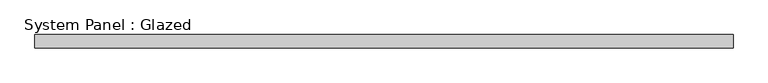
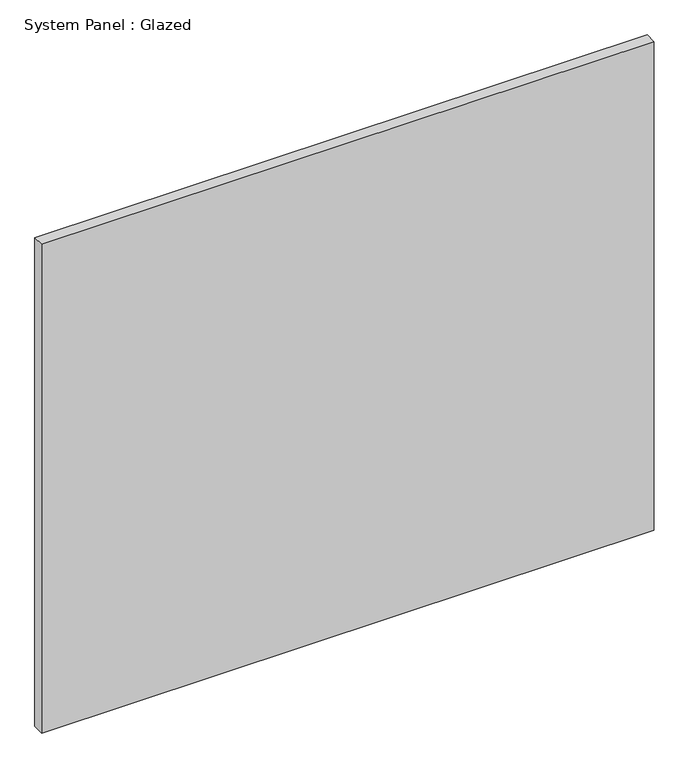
"""IFC4 building model written with IfcOpenShell, lengths in millimetres: plate geometry, System Panel : Glazed."""

from ifc_helpers import new_model, si_unit, origin, origin_with_axes, place, context, project, spatial, polyline, outline, extrude, source, transform, mapped, element, save


def system_panel_glazed_607453f2(model_context):
    return source(origin(), model_context, "Body", "SweptSolid", [
        extrude(outline(polyline([(674.4738159, 19.05), (-674.4738159, 19.05), (-674.4738159, 44.45), (674.4738159, 44.45), (674.4738159, 19.05)])), origin_with_axes(), (0.0, 0.0, 1.0), 1137.4164677),
    ])


if __name__ == "__main__":
    model = new_model("IFC4")
    model_context = context("Model", 3, world=origin())
    ifc_project = project(units=[si_unit("LENGTHUNIT", "METRE", prefix="MILLI")], contexts=[model_context])
    site = spatial("IfcSite", under=ifc_project)
    building = spatial("IfcBuilding", under=site)
    placement = place(None, origin())
    system_panel_glazed_shape = system_panel_glazed_607453f2(model_context)
    element("IfcPlate", 1, ObjectType="System Panel : Glazed", at=placement, inside=building, context=model_context, shape_type="MappedRepresentation", body=[
        mapped(system_panel_glazed_shape, transform((0.0, 0.0, 0.0), x_axis=(1.0, 0.0, 0.0), y_axis=(0.0, 1.0, 0.0), z_axis=(0.0, 0.0, 1.0))),
    ])
    save(model, "model.ifc")
